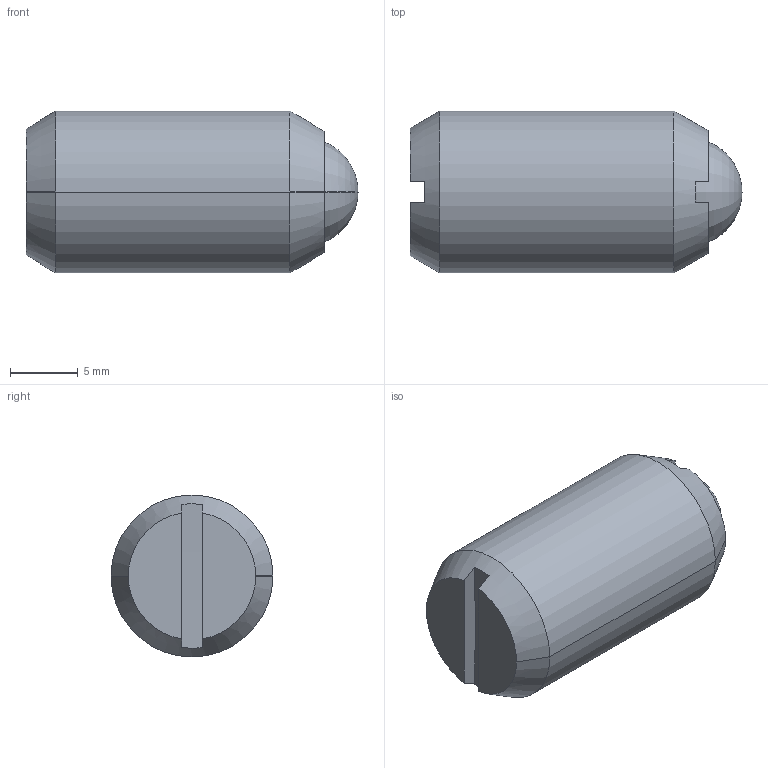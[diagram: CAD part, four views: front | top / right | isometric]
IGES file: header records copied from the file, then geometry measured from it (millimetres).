
Start section:  PTC IGES file: bm12a-part-3d.igs
Global section: file name: bm12a-part-3d.igs; native system: Pro/ENGINEER by Parametric Technology Corporation; preprocessor: 2002350; author: chant; organization: Unknown; date: 070201.140819; units: inch
Bounding box: 24.49 x 11.94 x 11.94 mm (x, y, z)
Surface area: 1565.1 mm2 (no closed solid volume)
Topology: 0 solids, 0 shells, 24 faces, 174 edges, 220 vertices
Faces by surface type: revolution 13, bspline 11
